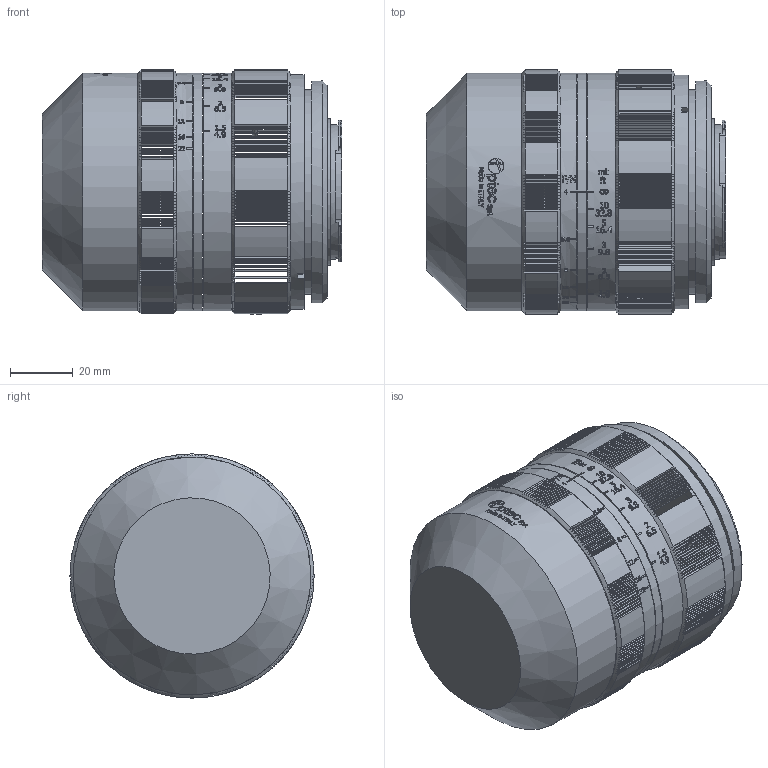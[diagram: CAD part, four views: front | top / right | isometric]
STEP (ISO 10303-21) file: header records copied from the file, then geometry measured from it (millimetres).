
FILE_DESCRIPTION((''),'2;1');
FILE_NAME('\\10.0.0.209\Doc Produ\Meccaniche\STP\A_2004\C0416\C0416_000\C0416_052.stp','2014-04-28T12:49:51',('mcilia'),(''),'Autodesk Inventor 2010','Autodesk Inventor 2010','');
FILE_SCHEMA(('AUTOMOTIVE_DESIGN { 1 0 10303 214 1 1 1 1 }'));
Length unit declared in the file: millimetre
Products named in the file (2): C0416_052_000 (Livello di dettaglio sostituto2); C0416_052
Assembly tree (1 placements, depth 2):
  C0416_052_000 (Livello di dettaglio sostituto2)
    C0416_052
Bounding box: 95.8 x 78 x 78 mm (x, y, z)
Surface area: 72513.5 mm2 (no closed solid volume)
Topology: 0 solids, 41 shells, 592 faces, 3819 edges, 3000 vertices
Faces by surface type: plane 437, cylinder 128, cone 15, bspline 12
Full cylindrical faces by diameter (mm): 1.567 x1, 43 x1, 47 x1, 65.5 x1, 67 x1, 75 x1, 76 x3
Entity records: 37960 total; most frequent: CARTESIAN_POINT 13259, ORIENTED_EDGE 5052, DIRECTION 4165, EDGE_CURVE 3774, VERTEX_POINT 2984, AXIS2_PLACEMENT_3D 1514, VECTOR 1137, LINE 1137
